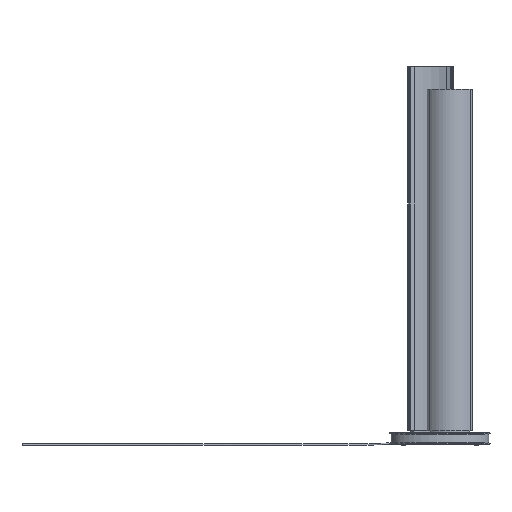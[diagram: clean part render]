
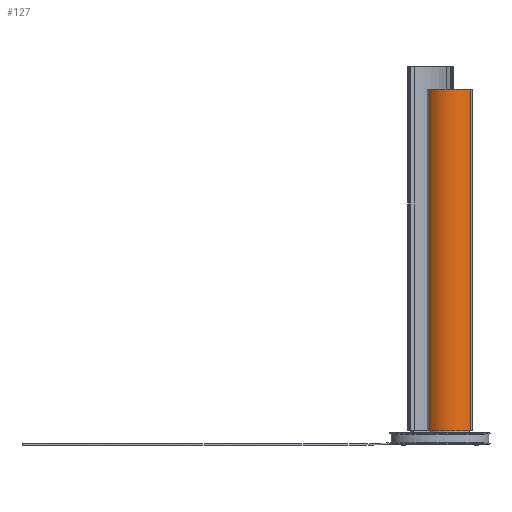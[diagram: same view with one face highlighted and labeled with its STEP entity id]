
A CAD part, front view. The second image highlights one B-rep face of the part: STEP entity #127.
In plain terms, the highlighted cylindrical face has radius 121 mm (diameter 242 mm), a partial arc.
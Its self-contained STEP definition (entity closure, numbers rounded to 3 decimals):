
#127=ADVANCED_FACE('',(#495),#6118,.T.);
#495=FACE_OUTER_BOUND('',#874,.T.);
#874=EDGE_LOOP('',(#1620,#1621,#1622,#1623));
#1620=ORIENTED_EDGE('',*,*,#3628,.T.);
#1621=ORIENTED_EDGE('',*,*,#3469,.F.);
#1622=ORIENTED_EDGE('',*,*,#3470,.T.);
#1623=ORIENTED_EDGE('',*,*,#3490,.F.);
#3469=EDGE_CURVE('',#5423,#5328,#5021,.T.);
#3470=EDGE_CURVE('',#5423,#5433,#4321,.T.);
#3490=EDGE_CURVE('',#5432,#5433,#5030,.T.);
#3628=EDGE_CURVE('',#5432,#5328,#4415,.T.);
#4321=B_SPLINE_CURVE_WITH_KNOTS('',1,(#22360,#22361),.UNSPECIFIED.,.F.,
 .F.,(2,2),(0.,1500.),.UNSPECIFIED.);
#4415=B_SPLINE_CURVE_WITH_KNOTS('',1,(#22890,#22891),.UNSPECIFIED.,.F.,
 .F.,(2,2),(-1500.,0.),.UNSPECIFIED.);
#5021=(
BOUNDED_CURVE()
B_SPLINE_CURVE(2,(#22355,#22356,#22357,#22358,#22359),.UNSPECIFIED.,.F.,
 .F.)
B_SPLINE_CURVE_WITH_KNOTS((3,2,3),(-285.899,-186.642,
-87.385),.UNSPECIFIED.)
CURVE()
GEOMETRIC_REPRESENTATION_ITEM()
RATIONAL_B_SPLINE_CURVE((1.,0.917,1.,0.917,1.))
REPRESENTATION_ITEM('')
);
#5030=(
BOUNDED_CURVE()
B_SPLINE_CURVE(2,(#22414,#22415,#22416,#22417,#22418),.UNSPECIFIED.,.F.,
 .F.)
B_SPLINE_CURVE_WITH_KNOTS((3,2,3),(87.385,186.642,285.899),
 .UNSPECIFIED.)
CURVE()
GEOMETRIC_REPRESENTATION_ITEM()
RATIONAL_B_SPLINE_CURVE((1.,0.917,1.,0.917,1.))
REPRESENTATION_ITEM('')
);
#5328=VERTEX_POINT('',#21672);
#5423=VERTEX_POINT('',#21767);
#5432=VERTEX_POINT('',#21776);
#5433=VERTEX_POINT('',#21777);
#6118=CYLINDRICAL_SURFACE('',#6375,121.);
#6375=AXIS2_PLACEMENT_3D('',#21499,#6726,$);
#6726=DIRECTION('',(0.,0.,1.));
#21499=CARTESIAN_POINT('',(-456.313,63.279,865.));
#21672=CARTESIAN_POINT('',(-544.807,-19.242,65.));
#21767=CARTESIAN_POINT('',(-367.819,-19.242,65.));
#21776=CARTESIAN_POINT('',(-544.807,-19.242,1565.));
#21777=CARTESIAN_POINT('',(-367.819,-19.242,1565.));
#22355=CARTESIAN_POINT('',(-367.819,-19.242,65.));
#22356=CARTESIAN_POINT('',(-403.701,-57.721,65.));
#22357=CARTESIAN_POINT('',(-456.313,-57.721,65.));
#22358=CARTESIAN_POINT('',(-508.925,-57.721,65.));
#22359=CARTESIAN_POINT('',(-544.807,-19.242,65.));
#22360=CARTESIAN_POINT('',(-367.819,-19.242,65.));
#22361=CARTESIAN_POINT('',(-367.819,-19.242,1565.));
#22414=CARTESIAN_POINT('',(-544.807,-19.242,1565.));
#22415=CARTESIAN_POINT('',(-508.925,-57.721,1565.));
#22416=CARTESIAN_POINT('',(-456.313,-57.721,1565.));
#22417=CARTESIAN_POINT('',(-403.701,-57.721,1565.));
#22418=CARTESIAN_POINT('',(-367.819,-19.242,1565.));
#22890=CARTESIAN_POINT('',(-544.807,-19.242,1565.));
#22891=CARTESIAN_POINT('',(-544.807,-19.242,65.));
